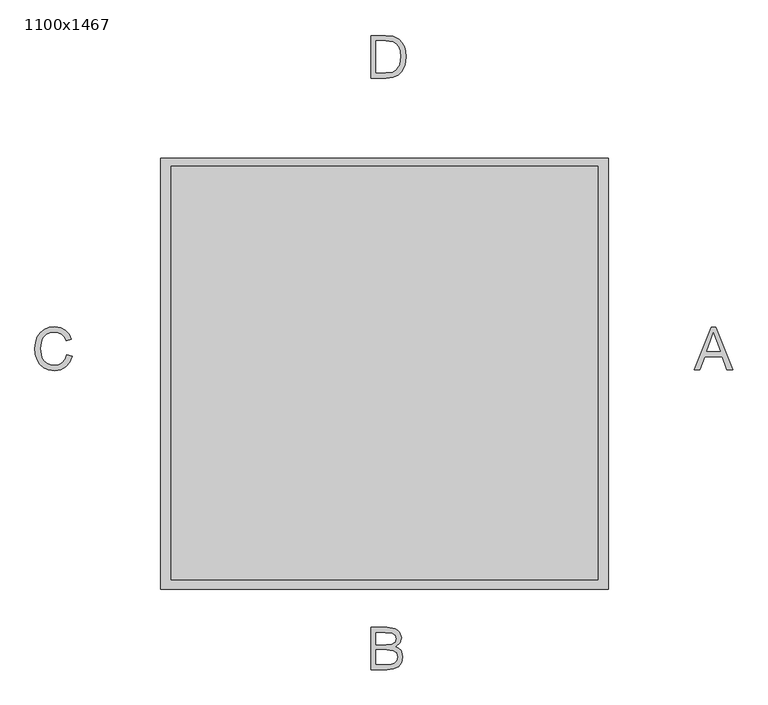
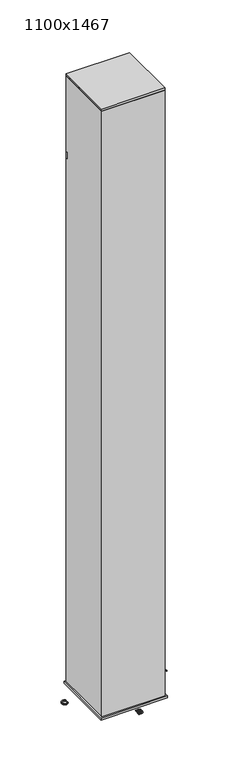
"""IFC4 building model written with IfcOpenShell, lengths in millimetres: proxy geometry, Cibes A5000 Base Component : 1100x1467."""

from ifc_helpers import new_model, si_unit, point, frame, frame_2d, origin, origin_with_axes, place, context, project, spatial, polyline, circle_curve, ellipse_curve, trimmed, segment, composite_curve, outline, extrude, source, transform, mapped, element, save
from ifc_brep_helpers import plane_surface, revolved_surface, extruded_surface, advanced_brep


def proxy_1100x1467_3c4d7773(model_context):
    return source(origin(), model_context, "Body", "SolidModel", [
        extrude(outline(polyline([(13215.1850038, -262.9829611), (13215.1850038, -253.7521919), (13248.6465423, -253.7521919), (13248.6465423, -219.1368073), (13257.8773115, -219.1368073), (13257.8773115, -253.7521919), (13279.8003885, -253.7521919), (13279.8003885, -213.3675765), (13289.0311577, -213.3675765), (13289.0311577, -262.9829611), (13215.1850038, -262.9829611)])), frame((0.0, -35.0, 0.0), z_axis=(0.0, 1.0, 0.0), x_axis=(0.0, 0.0, 1.0)), (0.0, 0.0, 1.0), 5.0),
        extrude(outline(polyline([(-192.5983457, -35.0), (-201.829115, -35.0), (-201.829115, -30.0), (-192.5983457, -30.0), (-192.5983457, -35.0)])), frame((0.0, 0.0, 13215.1850038), z_axis=(0.0, 0.0, 1.0), x_axis=(1.0, 0.0, 0.0)), (0.0, 0.0, 1.0), 54.2307692),
        extrude(outline(polyline([(-192.5983457, -35.0), (-201.829115, -35.0), (-201.829115, -30.0), (-192.5983457, -30.0), (-192.5983457, -35.0)])), frame((0.0, 0.0, 13279.8003885), z_axis=(0.0, 0.0, 1.0), x_axis=(1.0, 0.0, 0.0)), (0.0, 0.0, 1.0), 9.2307692),
        extrude(outline(polyline([(13215.1850038, -184.5214227), (13215.1850038, -173.4156534), (13234.5660135, -159.3892111), (13231.573225, -157.3158938), (13215.1850038, -146.0118073), (13215.1850038, -134.906038), (13242.4446192, -153.6920957), (13269.4157731, -134.1848842), (13269.4157731, -145.2906534), (13255.3172154, -155.4949804), (13250.3051962, -159.1187784), (13256.4350038, -163.3014707), (13269.4157731, -172.2618073), (13269.4157731, -183.3675765), (13242.4446192, -164.797865), (13215.1850038, -184.5214227)])), frame((0.0, -35.0, 0.0), z_axis=(0.0, 1.0, 0.0), x_axis=(0.0, 0.0, 1.0)), (0.0, 0.0, 1.0), 5.0),
        extrude(outline(polyline([(-117.5983457, -35.0), (-126.829115, -35.0), (-126.829115, -30.0), (-117.5983457, -30.0), (-117.5983457, -35.0)])), frame((0.0, 0.0, 13215.1850038), z_axis=(0.0, 0.0, 1.0), x_axis=(1.0, 0.0, 0.0)), (0.0, 0.0, 1.0), 54.2307692),
        extrude(outline(polyline([(-117.5983457, -35.0), (-126.829115, -35.0), (-126.829115, -30.0), (-117.5983457, -30.0), (-117.5983457, -35.0)])), frame((0.0, 0.0, 13279.8003885), z_axis=(0.0, 0.0, 1.0), x_axis=(1.0, 0.0, 0.0)), (0.0, 0.0, 1.0), 9.2307692),
        extrude(outline(polyline([(13215.1850038, -103.7521919), (13215.1850038, -94.5214227), (13243.9590423, -94.5214227), (13257.7150519, -90.3116871), (13261.33885, -80.296663), (13259.7252683, -73.9595236), (13255.4073596, -70.2005092), (13247.2402923, -69.1368073), (13215.1850038, -69.1368073), (13215.1850038, -59.906038), (13248.4842827, -59.906038), (13257.4085615, -60.3928169), (13264.1964221, -63.1602448), (13268.8118067, -69.109764), (13270.5696192, -77.8267111), (13268.3881288, -87.4631294), (13261.8436577, -94.5214227), (13269.4157731, -94.5214227), (13269.4157731, -103.7521919), (13215.1850038, -103.7521919)])), frame((0.0, -35.0, 0.0), z_axis=(0.0, 1.0, 0.0), x_axis=(0.0, 0.0, 1.0)), (0.0, 0.0, 1.0), 5.0),
        extrude(outline(polyline([(13210.5696192, -49.5214227), (13202.9862358, -48.2075705), (13197.5798356, -43.8693794), (13193.2619269, -28.5178169), (13196.3268308, -15.0412544), (13204.6651721, -7.0454611), (13222.5948596, -4.5214227), (13269.4157731, -4.5214227), (13269.4157731, -13.7521919), (13262.4926962, -13.7521919), (13268.5503885, -20.3913145), (13270.5696192, -28.62599), (13266.9999077, -40.3898121), (13256.8767106, -48.0340429), (13242.5708212, -50.6752688), (13232.105076, -49.2036643), (13223.2438981, -44.7888505), (13217.1997274, -37.692246), (13215.1850038, -28.1752688), (13216.9157731, -20.2515909), (13222.1080808, -13.7521919), (13211.3448596, -14.3832015), (13204.8184173, -18.890413), (13202.4926962, -28.3375284), (13204.5479846, -37.297865), (13209.4157731, -40.2906534), (13210.5696192, -49.5214227)]), holes=[polyline([(13243.2018308, -41.4444996), (13256.7685375, -37.4511102), (13261.33885, -27.7606054), (13256.6964221, -17.8627688), (13242.9313981, -13.7521919), (13228.8869269, -17.7455813), (13224.4157731, -27.6163746), (13228.9139702, -37.5051967), (13243.2018308, -41.4444996)])]), frame((0.0, -35.0, 0.0), z_axis=(0.0, 1.0, 0.0), x_axis=(0.0, 0.0, 1.0)), (0.0, 0.0, 1.0), 5.0),
        extrude(outline(polyline([(13215.1850038, 39.3247312), (13215.1850038, 48.5555004), (13245.1850038, 48.5555004), (13245.1850038, 67.3235293), (13246.8166144, 80.4372612), (13251.7114462, 88.7688418), (13258.9635495, 93.2242204), (13267.666975, 94.7093466), (13277.7360856, 92.5098273), (13284.8755087, 86.6955245), (13288.3280327, 77.7261735), (13289.0311577, 66.6925196), (13289.0311577, 39.3247312), (13215.1850038, 39.3247312)]), holes=[polyline([(13254.4157731, 48.5555004), (13279.8003885, 48.5555004), (13279.8003885, 67.6480485), (13279.1693788, 76.8788177), (13274.9866865, 83.1077841), (13267.3424558, 85.4785773), (13257.8051962, 81.4581446), (13254.4157731, 67.8643946), (13254.4157731, 48.5555004)])]), frame((0.0, -35.0, 0.0), z_axis=(0.0, 1.0, 0.0), x_axis=(0.0, 0.0, 1.0)), (0.0, 0.0, 1.0), 5.0),
        extrude(outline(polyline([(13242.3003885, 103.9401158), (13230.2030327, 105.6145449), (13221.3148115, 110.6378321), (13215.8520712, 118.3744607), (13214.0311577, 128.1889139), (13217.339451, 140.6919187), (13226.6333212, 149.4088658), (13243.0576, 152.4016543), (13254.553243, 150.7091963), (13263.2589221, 145.6318225), (13268.741945, 137.8861795), (13270.5696192, 128.1889139), (13269.0687178, 119.327736), (13264.5660135, 111.9268946), (13255.3758091, 105.9368105), (13242.3003885, 103.9401158)]), holes=[polyline([(13242.3184173, 113.170885), (13256.6062779, 117.4437216), (13261.33885, 128.1889139), (13256.588249, 138.8710052), (13242.6068788, 143.170885), (13228.0395712, 138.8980485), (13223.2619269, 128.1889139), (13228.0125279, 117.4437216), (13242.3184173, 113.170885)])]), frame((0.0, -35.0, 0.0), z_axis=(0.0, 1.0, 0.0), x_axis=(0.0, 0.0, 1.0)), (0.0, 0.0, 1.0), 5.0),
        extrude(outline(polyline([(172.0170389, -35.0), (162.7862696, -35.0), (162.7862696, -30.0), (172.0170389, -30.0), (172.0170389, -35.0)])), frame((0.0, 0.0, 13215.1850038), z_axis=(0.0, 0.0, 1.0), x_axis=(1.0, 0.0, 0.0)), (0.0, 0.0, 1.0), 54.2307692),
        extrude(outline(polyline([(172.0170389, -35.0), (162.7862696, -35.0), (162.7862696, -30.0), (172.0170389, -30.0), (172.0170389, -35.0)])), frame((0.0, 0.0, 13279.8003885), z_axis=(0.0, 0.0, 1.0), x_axis=(1.0, 0.0, 0.0)), (0.0, 0.0, 1.0), 9.2307692),
        extrude(outline(polyline([(13215.1850038, 185.8631927), (13215.1850038, 195.093962), (13243.9590423, 195.093962), (13257.7150519, 199.3036975), (13261.33885, 209.3187216), (13259.7252683, 215.655861), (13255.4073596, 219.4148754), (13247.2402923, 220.4785773), (13215.1850038, 220.4785773), (13215.1850038, 229.7093466), (13248.4842827, 229.7093466), (13257.4085615, 229.2225677), (13264.1964221, 226.4551398), (13268.8118067, 220.5056206), (13270.5696192, 211.7886735), (13268.3881288, 202.1522552), (13261.8436577, 195.093962), (13269.4157731, 195.093962), (13269.4157731, 185.8631927), (13215.1850038, 185.8631927)])), frame((0.0, -35.0, 0.0), z_axis=(0.0, 1.0, 0.0), x_axis=(0.0, 0.0, 1.0)), (0.0, 0.0, 1.0), 5.0),
        extrude(outline(polyline([(13222.8833212, 262.0170389), (13223.2619269, 257.9966062), (13223.8839221, 254.8505725), (13225.5696192, 253.2730485), (13230.3292346, 252.7862696), (13260.1850038, 252.7862696), (13260.1850038, 262.0170389), (13269.4157731, 262.0170389), (13269.4157731, 252.7862696), (13288.0215423, 252.7862696), (13282.5948596, 243.5555004), (13269.4157731, 243.5555004), (13269.4157731, 236.6324235), (13260.1850038, 236.6324235), (13260.1850038, 243.5555004), (13230.0588019, 243.5555004), (13219.5840423, 244.6732889), (13215.5636096, 248.531462), (13214.0311577, 256.265837), (13214.9145712, 263.170885), (13222.8833212, 262.0170389)])), frame((0.0, -35.0, 0.0), z_axis=(0.0, 1.0, 0.0), x_axis=(0.0, 0.0, 1.0)), (0.0, 0.0, 1.0), 5.0),
        extrude(outline(polyline([(13231.33885, 267.7862696), (13218.3941385, 274.8535773), (13214.0311577, 290.953337), (13216.2937779, 302.3836254), (13222.7030327, 310.108986), (13231.5371673, 312.7862696), (13239.5600038, 310.5056206), (13244.4818788, 304.2135533), (13248.8268308, 290.6648754), (13250.791975, 282.7141543), (13252.8292346, 279.2706446), (13255.5155327, 278.170885), (13259.5900519, 280.8211254), (13261.33885, 289.65526), (13259.5089221, 297.7772552), (13254.4157731, 301.2478081), (13255.5696192, 310.4785773), (13263.853874, 307.3055004), (13268.7577202, 300.1660773), (13270.5696192, 288.9341062), (13269.4428163, 280.9923995), (13266.7114462, 275.12401), (13261.4560375, 270.5987696), (13254.5780327, 268.9401158), (13247.1321192, 271.0044187), (13241.8586817, 277.0711254), (13237.3424558, 290.9713658), (13234.7102442, 300.4725677), (13230.5636096, 303.5555004), (13225.4434173, 300.4905966), (13223.2619269, 291.0795389), (13225.6417346, 281.2898754), (13232.4926962, 277.0170389), (13231.33885, 267.7862696)])), frame((0.0, -35.0, 0.0), z_axis=(0.0, 1.0, 0.0), x_axis=(0.0, 0.0, 1.0)), (0.0, 0.0, 1.0), 5.0),
        extrude(outline(polyline([(743.5, -55.0), (-743.5, -55.0), (-743.5, -30.0), (743.5, -30.0), (743.5, -55.0)])), frame((0.0, 0.0, 12960.0), z_axis=(0.0, 0.0, 1.0), x_axis=(1.0, 0.0, 0.0)), (0.0, 0.0, 1.0), 160.0),
        extrude(outline(polyline([(-1470.0, 15050.0), (-30.0, 15050.0), (-30.0, 15000.0), (-172.0, 15000.0), (-172.0, 15030.0), (-188.0, 15030.0), (-188.0, 15000.0), (-552.0, 15000.0), (-552.0, 15030.0), (-568.0, 15030.0), (-568.0, 15000.0), (-932.0, 15000.0), (-932.0, 15030.0), (-948.0, 15030.0), (-948.0, 15000.0), (-1312.0, 15000.0), (-1312.0, 15030.0), (-1328.0, 15030.0), (-1328.0, 15000.0), (-1470.0, 15000.0), (-1470.0, 15050.0)])), frame((-743.5, 0.0, 0.0), z_axis=(1.0, 0.0, 0.0), x_axis=(0.0, 1.0, 0.0)), (0.0, 0.0, 1.0), 1487.0),
        extrude(outline(composite_curve([segment(polyline([(-471.6901264, 1060.0), (-471.6901264, 1100.0)]), True, "CONTINUOUS"), segment(trimmed(circle_curve(frame_2d((-455.3314522, 1100.0)), 16.3586742), [point((-471.6901264, 1100.0))], [point((-455.3314522, 1116.3586742))], False, "CARTESIAN"), True, "CONTINUOUS"), segment(polyline([(-455.3314522, 1116.3586742), (-360.0, 1116.3586742), (-360.0, 976.3586742), (-378.7970233, 976.3586742), (-471.6901264, 1060.0)]), True, "CONTINUOUS")], self_intersect=False)), frame((-359.5, 0.0, 0.0), z_axis=(1.0, 0.0, 0.0), x_axis=(0.0, 1.0, 0.0)), (0.0, 0.0, 1.0), 3.0),
        extrude(outline(composite_curve([segment(polyline([(-471.6901264, 1060.0), (-471.6901264, 1100.0)]), True, "CONTINUOUS"), segment(trimmed(circle_curve(frame_2d((-455.3314522, 1100.0)), 16.3586742), [point((-471.6901264, 1100.0))], [point((-455.3314522, 1116.3586742))], False, "CARTESIAN"), True, "CONTINUOUS"), segment(polyline([(-455.3314522, 1116.3586742), (-360.0, 1116.3586742), (-360.0, 976.3586742), (-378.7970233, 976.3586742), (-471.6901264, 1060.0)]), True, "CONTINUOUS")], self_intersect=False)), frame((-650.5, 0.0, 0.0), z_axis=(1.0, 0.0, 0.0), x_axis=(0.0, 1.0, 0.0)), (0.0, 0.0, 1.0), 3.0),
        extrude(outline(polyline([(-359.5, -380.0), (-359.5, -660.0), (-647.5, -660.0), (-647.5, -380.0), (-359.5, -380.0)])), frame((0.0, 0.0, 1070.0), z_axis=(0.0, 0.0, 1.0), x_axis=(1.0, 0.0, 0.0)), (0.0, 0.0, 1.0), 30.0),
        extrude(outline(polyline([(270.0, -360.0), (-270.0, -360.0), (-270.0, -295.0), (270.0, -295.0), (270.0, -360.0)])), frame((0.0, 0.0, 600.0), z_axis=(0.0, 0.0, 1.0), x_axis=(1.0, 0.0, 0.0)), (0.0, 0.0, 1.0), 780.0),
        extrude(outline(polyline([(733.5, -295.0), (733.5, -1460.0), (-733.5, -1460.0), (-733.5, -295.0), (733.5, -295.0)])), frame((0.0, 0.0, 550.0), z_axis=(0.0, 0.0, 1.0), x_axis=(1.0, 0.0, 0.0)), (0.0, 0.0, 1.0), 45.0),
        extrude(outline(polyline([(0.0, -28.4203647), (0.0, 0.0), (2.0, 0.0), (2.0, -28.4203647), (0.0, -28.4203647)])), frame((56.4673585, -404.1238093, 1459.0733167), z_axis=(0.0, 0.28346915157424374, 0.9589813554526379), x_axis=(0.0, 0.9589813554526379, -0.28346915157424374)), (0.0, 0.0, 1.0), 36.8499057),
        extrude(outline(polyline([(0.0, -28.4203646), (0.0, 0.0), (2.0, 0.0), (2.0, -28.4203646), (0.0, -28.4203646)])), frame((13.2200367, -404.1238093, 1459.0733167), z_axis=(0.0, 0.28346915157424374, 0.9589813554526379), x_axis=(0.0, 0.9589813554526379, -0.28346915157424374)), (0.0, 0.0, 1.0), 36.8499057),
        extrude(outline(polyline([(0.0, -28.4203646), (0.0, 0.0), (2.0, 0.0), (2.0, -28.4203646), (0.0, -28.4203646)])), frame((-30.0272852, -404.1238093, 1459.0733167), z_axis=(0.0, 0.28346915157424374, 0.9589813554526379), x_axis=(0.0, 0.9589813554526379, -0.28346915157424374)), (0.0, 0.0, 1.0), 36.8499057),
        extrude(outline(polyline([(0.0, -28.4203647), (0.0, 0.0), (2.0, 0.0), (2.0, -28.4203647), (0.0, -28.4203647)])), frame((-156.524026, -404.1238093, 1459.0733167), z_axis=(0.0, 0.28346915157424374, 0.9589813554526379), x_axis=(0.0, 0.9589813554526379, -0.28346915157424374)), (0.0, 0.0, 1.0), 36.8499057),
        extrude(outline(polyline([(0.0, -28.4203647), (0.0, 0.0), (2.0000001, 0.0), (2.0000001, -28.4203647), (0.0, -28.4203647)])), frame((56.4673585, -404.834557, 1463.7242858), z_axis=(0.0, 0.28346915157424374, 0.9589813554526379), x_axis=(0.0, 0.9589813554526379, -0.28346915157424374)), (0.0, 0.0, 1.0), 20.3427027),
        extrude(outline(polyline([(0.0, -28.4203646), (0.0, 0.0), (2.0000001, 0.0), (2.0000001, -28.4203646), (0.0, -28.4203646)])), frame((13.2200367, -404.834557, 1463.7242858), z_axis=(0.0, 0.28346915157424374, 0.9589813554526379), x_axis=(0.0, 0.9589813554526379, -0.28346915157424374)), (0.0, 0.0, 1.0), 20.3427027),
        extrude(outline(polyline([(0.0, -28.4203646), (0.0, 0.0), (2.0000001, 0.0), (2.0000001, -28.4203646), (0.0, -28.4203646)])), frame((-30.0272852, -404.834557, 1463.7242858), z_axis=(0.0, 0.28346915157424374, 0.9589813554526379), x_axis=(0.0, 0.9589813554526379, -0.28346915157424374)), (0.0, 0.0, 1.0), 20.3427027),
        extrude(outline(polyline([(0.0, -28.4203647), (0.0, 0.0), (2.0000001, 0.0), (2.0000001, -28.4203647), (0.0, -28.4203647)])), frame((-156.524026, -404.834557, 1463.7242858), z_axis=(0.0, 0.28346915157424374, 0.9589813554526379), x_axis=(0.0, 0.9589813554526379, -0.28346915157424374)), (0.0, 0.0, 1.0), 20.3427027),
        extrude(outline(composite_curve([segment(trimmed(circle_curve(frame_2d((0.0, -15.0)), 15.0), [point((0.0, -30.0))], [point((0.0, 0.0))], False, "CARTESIAN"), True, "CONTINUOUS"), segment(trimmed(circle_curve(frame_2d((0.0, -15.0)), 15.0), [point((0.0, 0.0))], [point((0.0, -30.0))], False, "CARTESIAN"), True, "CONTINUOUS")], self_intersect=False)), frame((-179.916623, -403.6305796, 1460.7419221), z_axis=(0.0, -0.9589813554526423, 0.2834691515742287), x_axis=(-1.0, 0.0, 0.0)), (0.0, 0.0, 1.0), 8.0),
        advanced_brep(
        [(-448.5, -396.1272176, 1395.3030634), (-448.5, -396.1272176, 1443.9428304), (448.5, -396.1272176, 1443.9428304), (448.5, -396.1272176, 1395.3030634), (-656.1426065, -348.3163003, 1443.9428304), (-656.1426065, -348.3163003, 1395.3030634), (652.8045924, -348.3550559, 1443.9428304), (652.8045924, -348.3550559, 1395.3030634)],
        [
            (0, 1, ellipse_curve(frame((-448.5, -396.1272176, 1419.6229469), z_axis=(1.0, 0.0, 0.0), x_axis=(0.0, 0.0, -1.0)), 24.3198835, 12.504546)),
            (1, 2),
            (2, 3, ellipse_curve(frame((448.5, -396.1272176, 1419.6229469), z_axis=(-1.0, 0.0, 0.0), x_axis=(0.0, 0.0, -1.0)), 24.3198835, 12.504546)),
            (3, 0),
            (1, 0, ellipse_curve(frame((-448.5, -396.1272176, 1419.6229469), z_axis=(1.0, 0.0, 0.0), x_axis=(0.0, 0.0, -1.0)), 24.3198835, 12.504546)),
            (3, 2, ellipse_curve(frame((448.5, -396.1272176, 1419.6229469), z_axis=(-1.0, 0.0, 0.0), x_axis=(0.0, 0.0, -1.0)), 24.3198835, 12.504546)),
            (4, 5, ellipse_curve(frame((-656.1426065, -348.3163003, 1419.6229469), z_axis=(-0.8993032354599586, 0.4373256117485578, 0.0), x_axis=(0.0, 0.0, -1.0)), 24.3198835, 12.504546)),
            (5, 4, ellipse_curve(frame((-656.1426065, -348.3163003, 1419.6229469), z_axis=(-0.8993032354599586, 0.4373256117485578, 0.0), x_axis=(0.0, 0.0, -1.0)), 24.3198835, 12.504546)),
            (0, 5, circle_curve(frame((-448.5, 78.6737109, 1395.3030634), z_axis=(0.0, 0.0, -1.0), x_axis=(-0.4373256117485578, -0.8993032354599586, 0.0)), 474.8009285)),
            (4, 1, circle_curve(frame((-448.5, 78.6737109, 1443.9428304), z_axis=(0.0, 0.0, 1.0), x_axis=(-0.4373256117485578, -0.8993032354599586, 0.0)), 474.8009285)),
            (6, 7, ellipse_curve(frame((652.8045924, -348.3550559, 1419.6229469), z_axis=(0.896317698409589, 0.4434124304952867, 0.0), x_axis=(0.0, 0.0, -1.0)), 24.3198835, 12.504546)),
            (7, 6, ellipse_curve(frame((652.8045924, -348.3550559, 1419.6229469), z_axis=(0.896317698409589, 0.4434124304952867, 0.0), x_axis=(0.0, 0.0, -1.0)), 24.3198835, 12.504546)),
            (7, 3, circle_curve(frame((448.5, 64.6280034, 1395.3030634), z_axis=(0.0, 0.0, -1.0), x_axis=(0.0, -1.0, 0.0)), 460.755221)),
            (2, 6, circle_curve(frame((448.5, 64.6280034, 1443.9428304), z_axis=(0.0, 0.0, 1.0), x_axis=(0.0, -1.0, 0.0)), 460.755221)),
        ],
        [
            extruded_surface(trimmed(ellipse_curve(frame((448.5, -396.1272176, 1419.6229469), z_axis=(-1.0, 0.0, 0.0), x_axis=(0.0, 0.0, -1.0)), 24.3198835, 12.504546), [point((448.5, -396.1272176, 1443.9428304))], [point((448.5, -396.1272176, 1395.3030634))], True, "CARTESIAN"), (-897.0, 0.0, 0.0), 897.0),
            extruded_surface(trimmed(ellipse_curve(frame((448.5, -396.1272176, 1419.6229469), z_axis=(-1.0, 0.0, 0.0), x_axis=(0.0, 0.0, -1.0)), 24.3198835, 12.504546), [point((448.5, -396.1272176, 1395.3030634))], [point((448.5, -396.1272176, 1443.9428304))], True, "CARTESIAN"), (-897.0, 0.0, 0.0), 897.0),
            plane_surface(frame((-661.8195686, -359.9902344, 550.0), z_axis=(-0.8993032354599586, 0.4373256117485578, 0.0), x_axis=(0.0, 0.0, 1.0))),
            revolved_surface(trimmed(ellipse_curve(frame((-656.1426065, -348.3163003, 1419.6229469), z_axis=(-0.8993032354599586, 0.4373256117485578, 0.0), x_axis=(0.0, 0.0, -1.0)), 24.3198835, 12.504546), [point((-656.1426065, -348.3163003, 1443.9428304))], [point((-656.1426065, -348.3163003, 1395.3030634))], True, "CARTESIAN"), (-448.5, 78.6737109, 550.0), (0.0, 0.0, 1.0)),
            revolved_surface(trimmed(ellipse_curve(frame((-656.1426065, -348.3163003, 1419.6229469), z_axis=(-0.8993032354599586, 0.4373256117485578, 0.0), x_axis=(0.0, 0.0, -1.0)), 24.3198835, 12.504546), [point((-656.1426065, -348.3163003, 1395.3030634))], [point((-656.1426065, -348.3163003, 1443.9428304))], True, "CARTESIAN"), (-448.5, 78.6737109, 550.0), (0.0, 0.0, 1.0)),
            plane_surface(frame((658.560568, -359.9902344, 550.0), z_axis=(0.8963176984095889, 0.4434124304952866, 0.0), x_axis=(0.0, 0.0, 1.0))),
            revolved_surface(trimmed(ellipse_curve(frame((448.5, -396.1272176, 1419.6229469), z_axis=(-1.0, 0.0, 0.0), x_axis=(0.0, 0.0, -1.0)), 24.3198835, 12.504546), [point((448.5, -396.1272176, 1443.9428304))], [point((448.5, -396.1272176, 1395.3030634))], True, "CARTESIAN"), (448.5, 64.6280034, 550.0), (0.0, 0.0, 1.0)),
            revolved_surface(trimmed(ellipse_curve(frame((448.5, -396.1272176, 1419.6229469), z_axis=(-1.0, 0.0, 0.0), x_axis=(0.0, 0.0, -1.0)), 24.3198835, 12.504546), [point((448.5, -396.1272176, 1395.3030634))], [point((448.5, -396.1272176, 1443.9428304))], True, "CARTESIAN"), (448.5, 64.6280034, 550.0), (0.0, 0.0, 1.0)),
        ],
        [
            (0, [[1, 2, 3, 4]]),
            (1, [[5, -4, 6, -2]]),
            (2, [[7, 8]]),
            (3, [[9, -7, 10, -1]]),
            (4, [[-10, -8, -9, -5]]),
            (5, [[11, 12]]),
            (6, [[13, -3, 14, -12]]),
            (7, [[-14, -6, -13, -11]]),
        ],
    ),
        extrude(outline(composite_curve([segment(polyline([(-295.0, 1372.0429478), (-406.3206667, 1372.0429478)]), True, "CONTINUOUS"), segment(trimmed(circle_curve(frame_2d((-359.9012489, 1398.3144071)), 53.3380907), [point((-406.3206667, 1372.0429478))], [point((-406.3206667, 1424.5858663))], False, "CARTESIAN"), True, "CONTINUOUS"), segment(polyline([(-406.3206667, 1424.5858663), (-340.0, 1648.949902), (-295.0, 1648.949902), (-295.0, 1372.0429478)]), True, "CONTINUOUS")], self_intersect=False)), frame((-270.0, 0.0, 0.0), z_axis=(1.0, 0.0, 0.0), x_axis=(0.0, 1.0, 0.0)), (0.0, 0.0, 1.0), 540.0),
        extrude(outline(composite_curve([segment(trimmed(circle_curve(frame_2d((-289.2145979, 1603.6566917)), 112.1668596), [point((-382.5243558, 1665.9037277))], [point((-295.0, 1715.6742507))], False, "CARTESIAN"), True, "CONTINUOUS"), segment(polyline([(-295.0, 1715.6742507), (-295.0, 1653.949902), (-383.4263665, 1653.949902)]), True, "CONTINUOUS"), segment(trimmed(circle_curve(frame_2d((-371.4637856, 1659.0581754)), 13.0076055), [point((-383.4263665, 1653.949902))], [point((-382.5243558, 1665.9037277))], False, "CARTESIAN"), True, "CONTINUOUS")], self_intersect=False)), frame((-703.5, 0.0, 0.0), z_axis=(1.0, 0.0, 0.0), x_axis=(0.0, 1.0, 0.0)), (0.0, 0.0, 1.0), 1407.0),
        extrude(outline(polyline([(-270.0, -360.0), (-718.5, -360.0), (-718.5, -295.0), (-270.0, -295.0), (-270.0, -360.0)])), frame((0.0, 0.0, 600.0), z_axis=(0.0, 0.0, 1.0), x_axis=(1.0, 0.0, 0.0)), (0.0, 0.0, 1.0), 1054.0),
        extrude(outline(polyline([(718.5, -360.0), (270.0, -360.0), (270.0, -295.0), (718.5, -295.0), (718.5, -360.0)])), frame((0.0, 0.0, 600.0), z_axis=(0.0, 0.0, 1.0), x_axis=(1.0, 0.0, 0.0)), (0.0, 0.0, 1.0), 1054.0),
        extrude(outline(polyline([(733.5, -295.0), (733.5, -1460.0), (-733.5, -1460.0), (-733.5, -295.0), (733.5, -295.0)])), frame((0.0, 0.0, 595.0), z_axis=(0.0, 0.0, 1.0), x_axis=(1.0, 0.0, 0.0)), (0.0, 0.0, 1.0), 5.0),
        extrude(outline(polyline([(743.5, -30.0), (743.5, -1470.0), (-743.5, -1470.0), (-743.5, -30.0), (743.5, -30.0)])), origin_with_axes(), (0.0, 0.0, 1.0), 15000.0),
        extrude(outline(polyline([(780.0, 0.0), (780.0, -1500.0), (-780.0, -1500.0), (-780.0, 0.0), (780.0, 0.0)])), frame((0.0, 0.0, -50.0), z_axis=(0.0, 0.0, 1.0), x_axis=(1.0, 0.0, 0.0)), (0.0, 0.0, 1.0), 50.0),
        extrude(outline(polyline([(-48.0242742, 279.3935445), (-48.0242742, 427.0858522), (2.9252451, 427.0858522), (29.2834181, 424.9584484), (50.9901489, 414.3935445), (61.2034903, 403.1435445), (68.4781297, 389.1531599), (72.832096, 372.6928234), (74.2834181, 354.0329676), (70.3531297, 324.2312849), (60.2569758, 302.7228715), (46.7713989, 289.3274388), (29.1211585, 281.917583), (5.3771681, 279.3935445), (-48.0242742, 279.3935445)]), holes=[polyline([(-29.5627357, 297.855083), (3.1055335, 297.855083), (26.8675528, 300.5233522), (40.5694758, 308.0594099), (51.801447, 326.3947465), (55.8218797, 354.3214292), (53.8522282, 374.4416215), (47.9432739, 389.2973907), (39.2128052, 399.5017176), (28.7786104, 405.667583), (2.6007258, 408.6243138), (-29.5627357, 408.6243138), (-29.5627357, 297.855083)])]), origin_with_axes(), (0.0, 0.0, 1.0), 20.0),
        extrude(outline(polyline([(1078.943645, -736.743062), (1137.8979719, -589.0507543), (1153.6191257, -589.0507543), (1212.5734527, -736.743062), (1193.0662411, -736.743062), (1176.1551834, -690.5892158), (1115.3258565, -690.5892158), (1098.4508565, -736.743062), (1078.943645, -736.743062)]), holes=[polyline([(1122.1047027, -672.1276774), (1169.412395, -672.1276774), (1156.1071065, -635.8175812), (1145.7585488, -607.5122928), (1136.5638373, -632.6445043), (1122.1047027, -672.1276774)])]), origin_with_axes(), (0.0, 0.0, 1.0), 20.0),
        extrude(outline(polyline([(-1107.6816257, -684.243062), (-1089.2200873, -689.0026774), (-1097.7387171, -710.5155981), (-1111.1071065, -726.2322447), (-1128.6672027, -735.8461269), (-1149.7609527, -739.0507543), (-1171.1747147, -736.6258745), (-1188.1804238, -729.3512351), (-1201.2152796, -717.4792399), (-1210.7164815, -701.2622928), (-1216.5172628, -682.196788), (-1218.4508565, -661.7791197), (-1216.2648589, -640.243663), (-1209.7068661, -621.6469082), (-1199.1194262, -606.5793), (-1184.8450873, -595.6312832), (-1167.9160007, -588.9651173), (-1149.364318, -586.743062), (-1129.122431, -589.618663), (-1112.3871546, -598.2454658), (-1099.6813253, -612.0916197), (-1091.5277796, -630.6252735), (-1109.989318, -635.024312), (-1116.3895584, -621.5612711), (-1125.1335488, -612.3259947), (-1136.3294623, -606.984949), (-1150.0854719, -605.2046005), (-1165.9418421, -607.1787591), (-1178.9676834, -613.1012351), (-1188.8519983, -622.3500332), (-1195.2837892, -634.3031582), (-1199.989318, -661.743062), (-1194.4184046, -693.5459466), (-1187.2970104, -705.422449), (-1177.0746546, -713.8644562), (-1164.8195464, -718.9080259), (-1151.599895, -720.5892158), (-1136.1897387, -718.2995524), (-1123.348693, -711.430562), (-1113.653681, -700.0543601), (-1107.6816257, -684.243062)])), origin_with_axes(), (0.0, 0.0, 1.0), 20.0),
        extrude(outline(polyline([(-48.0242742, -1780.6064555), (-48.0242742, -1632.9141478), (8.3338989, -1632.9141478), (35.9360624, -1637.2590997), (45.2119037, -1642.7714194), (52.2341393, -1650.6184747), (58.129572, -1669.5127055), (53.1716393, -1686.7663112), (38.1896681, -1699.8372247), (48.6509061, -1705.2999651), (56.3807739, -1713.6112632), (61.1539109, -1724.2212391), (62.7449566, -1736.5800132), (58.4000047, -1756.4297728), (47.6367835, -1770.5643882), (31.5730816, -1778.0643882), (7.9012066, -1780.6064555), (-48.0242742, -1780.6064555)]), holes=[polyline([(-29.5627357, -1692.9141478), (4.1512066, -1692.9141478), (23.8387066, -1691.3276093), (35.6836585, -1684.4946766), (39.6680335, -1672.4694362), (35.9540912, -1660.426167), (25.317072, -1653.3047728), (1.5911104, -1651.3756862), (-29.5627357, -1651.3756862), (-29.5627357, -1692.9141478)]), polyline([(-29.5627357, -1762.144917), (8.2978412, -1762.144917), (21.9997643, -1761.4237632), (33.5923124, -1757.4033305), (41.2726008, -1749.2002055), (44.2834181, -1736.7603016), (40.7497643, -1722.4093401), (29.301447, -1713.8456382), (6.4949566, -1711.3756862), (-29.5627357, -1711.3756862), (-29.5627357, -1762.144917)])]), origin_with_axes(), (0.0, 0.0, 1.0), 20.0),
        extrude(outline(composite_curve([segment(trimmed(circle_curve(frame_2d((0.0, -132.2165715)), 30.0), [point((-30.0, -132.2165715))], [point((30.0, -132.2165715))], False, "CARTESIAN"), True, "CONTINUOUS"), segment(trimmed(circle_curve(frame_2d((0.0, -132.2165715)), 30.0), [point((30.0, -132.2165715))], [point((-30.0, -132.2165715))], False, "CARTESIAN"), True, "CONTINUOUS")], self_intersect=False)), origin_with_axes(), (0.0, 0.0, 1.0), 15000.0),
    ])


if __name__ == "__main__":
    model = new_model("IFC4")
    model_context = context("Model", 3, world=origin())
    ifc_project = project(units=[si_unit("LENGTHUNIT", "METRE", prefix="MILLI")], contexts=[model_context])
    site = spatial("IfcSite", under=ifc_project)
    building = spatial("IfcBuilding", under=site)
    placement = place(None, origin())
    proxy_1100x1467_shape = proxy_1100x1467_3c4d7773(model_context)
    element("IfcBuildingElementProxy", 1, Name="Cibes A5000 Base Component : 1100x1467", ObjectType="Cibes A5000 Base Component : 1100x1467", at=placement, inside=building, context=model_context, shape_type="MappedRepresentation", body=[
        mapped(proxy_1100x1467_shape, transform((0.0, 0.0, 0.0), x_axis=(1.0, 0.0, 0.0), y_axis=(0.0, 1.0, 0.0), z_axis=(0.0, 0.0, 1.0))),
    ])
    save(model, "model.ifc")
